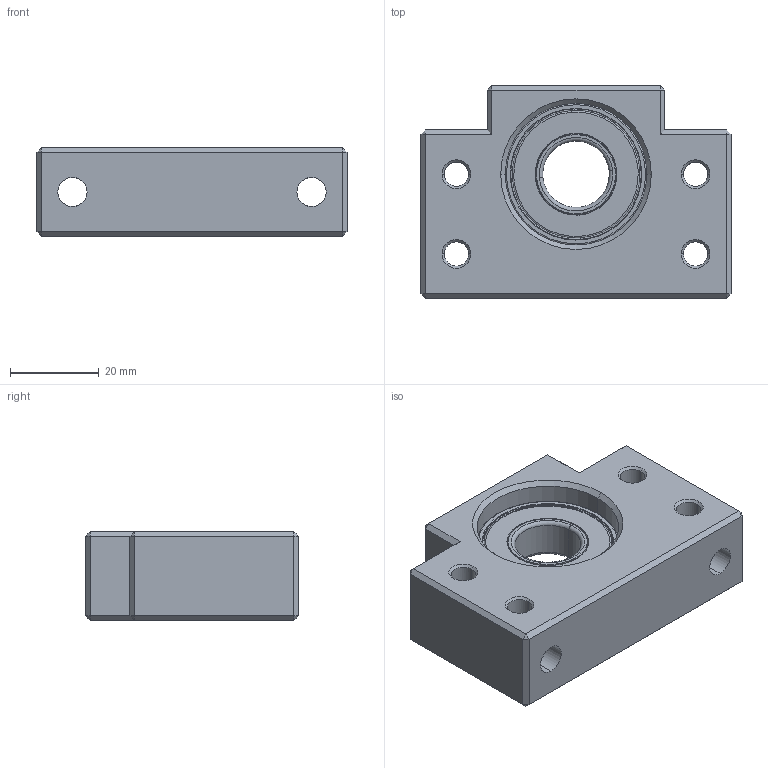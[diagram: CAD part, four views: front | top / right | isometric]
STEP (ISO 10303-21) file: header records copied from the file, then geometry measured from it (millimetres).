
FILE_DESCRIPTION (( 'STEP AP203' ), '1' );
FILE_NAME ('BF15²Õ¦X¥ó.STEP', '2017-12-27T08:15:40', ( '' ), ( '' ), 'SwSTEP 2.0', 'SolidWorks 2017', '' );
FILE_SCHEMA (( 'CONFIG_CONTROL_DESIGN' ));
Length unit declared in the file: millimetre
Products named in the file (1): BF15組合件
Bounding box: 70 x 48 x 20 mm (x, y, z)
Surface area: 15144.1 mm2 (no closed solid volume)
Topology: 0 solids, 6 shells, 150 faces, 354 edges, 208 vertices
Faces by surface type: plane 54, cylinder 40, torus 32, cone 24
Entity records: 4872 total; most frequent: CARTESIAN_POINT 1273, DIRECTION 788, ORIENTED_EDGE 688, EDGE_CURVE 354, AXIS2_PLACEMENT_3D 315, VERTEX_POINT 208, EDGE_LOOP 174, CIRCLE 164
